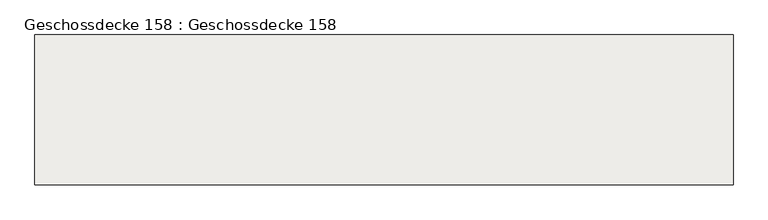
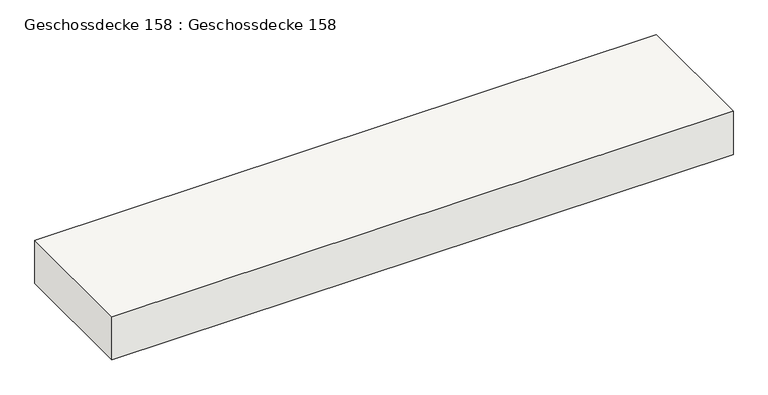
"""IFC4 building model written with IfcOpenShell, lengths in millimetres: slab geometry, Geschossdecke 158 : Geschossdecke 158."""

from ifc_helpers import new_model, si_unit, frame, origin, place, context, project, spatial, polyline, outline, extrude, source, transform, mapped, element, save


def geschossdecke_158_geschossdecke_158_5216adb9(model_context):
    return source(origin(), model_context, "Body", "SweptSolid", [
        extrude(outline(polyline([(9324.1639552, 7713.1102119), (9324.1639552, 8295.9372809), (12035.8855919, 8295.9372809), (12035.8855919, 7713.1102119), (9324.1639552, 7713.1102119)])), frame((0.0, 0.0, 2950.0), z_axis=(0.0, 0.0, 1.0), x_axis=(1.0, 0.0, 0.0)), (0.0, 0.0, 1.0), 200.0),
    ])


if __name__ == "__main__":
    model = new_model("IFC4")
    model_context = context("Model", 3, world=origin())
    ifc_project = project(units=[si_unit("LENGTHUNIT", "METRE", prefix="MILLI")], contexts=[model_context])
    site = spatial("IfcSite", under=ifc_project)
    building = spatial("IfcBuilding", under=site)
    placement = place(None, origin())
    geschossdecke_158_geschossdecke_158_shape = geschossdecke_158_geschossdecke_158_5216adb9(model_context)
    element("IfcSlab", 1, ObjectType="Geschossdecke 158 : Geschossdecke 158", at=placement, inside=building, context=model_context, shape_type="MappedRepresentation", body=[
        mapped(geschossdecke_158_geschossdecke_158_shape, transform((0.0, 0.0, 0.0), x_axis=(1.0, 0.0, 0.0), y_axis=(0.0, 1.0, 0.0), z_axis=(0.0, 0.0, 1.0))),
    ])
    save(model, "model.ifc")
